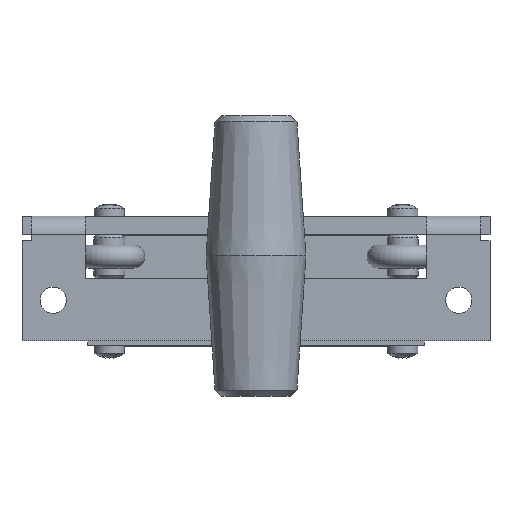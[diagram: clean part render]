
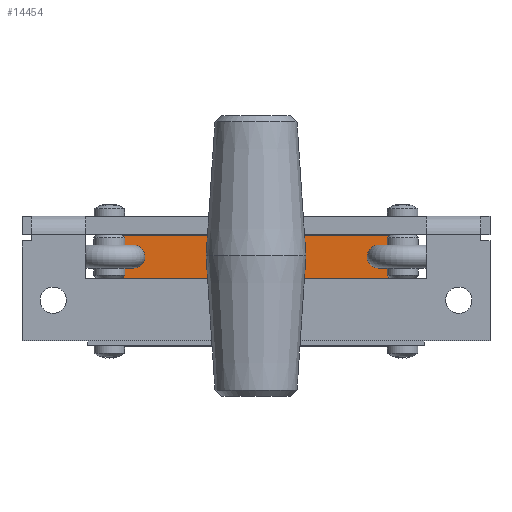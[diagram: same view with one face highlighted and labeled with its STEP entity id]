
A CAD part, top view. The second image highlights one B-rep face of the part: STEP entity #14454.
In plain terms, the highlighted planar face has unit normal (0, 0, 1).
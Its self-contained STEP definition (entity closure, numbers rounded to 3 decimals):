
#11742 = PLANE('',#11743);
#11743 = AXIS2_PLACEMENT_3D('',#11744,#11745,#11746);
#11744 = CARTESIAN_POINT('',(0.,-13.5,-16.73));
#11745 = DIRECTION('',(0.,1.,0.));
#11746 = DIRECTION('',(0.,0.,-1.));
#12908 = VERTEX_POINT('',#12909);
#12909 = CARTESIAN_POINT('',(21.3,-13.5,-35.2));
#12935 = EDGE_CURVE('',#12936,#12908,#12938,.T.);
#12936 = VERTEX_POINT('',#12937);
#12937 = CARTESIAN_POINT('',(5.,-13.5,-35.2));
#12938 = SURFACE_CURVE('',#12939,(#12943,#12950),.PCURVE_S1.);
#12939 = LINE('',#12940,#12941);
#12940 = CARTESIAN_POINT('',(-21.3,-13.5,-35.2));
#12941 = VECTOR('',#12942,1.);
#12942 = DIRECTION('',(1.,0.,0.));
#12943 = PCURVE('',#11742,#12944);
#12944 = DEFINITIONAL_REPRESENTATION('',(#12945),#12949);
#12945 = LINE('',#12946,#12947);
#12946 = CARTESIAN_POINT('',(18.47,21.3));
#12947 = VECTOR('',#12948,1.);
#12948 = DIRECTION('',(0.,-1.));
#12949 = ( GEOMETRIC_REPRESENTATION_CONTEXT(2) 
PARAMETRIC_REPRESENTATION_CONTEXT() REPRESENTATION_CONTEXT('2D SPACE',''
  ) );
#12950 = PCURVE('',#12951,#12956);
#12951 = PLANE('',#12952);
#12952 = AXIS2_PLACEMENT_3D('',#12953,#12954,#12955);
#12953 = CARTESIAN_POINT('',(0.,-3.9,-35.2));
#12954 = DIRECTION('',(0.,0.,-1.));
#12955 = DIRECTION('',(1.,0.,0.));
#12956 = DEFINITIONAL_REPRESENTATION('',(#12957),#12961);
#12957 = LINE('',#12958,#12959);
#12958 = CARTESIAN_POINT('',(-21.3,9.6));
#12959 = VECTOR('',#12960,1.);
#12960 = DIRECTION('',(1.,0.));
#12961 = ( GEOMETRIC_REPRESENTATION_CONTEXT(2) 
PARAMETRIC_REPRESENTATION_CONTEXT() REPRESENTATION_CONTEXT('2D SPACE',''
  ) );
#12964 = VERTEX_POINT('',#12965);
#12965 = CARTESIAN_POINT('',(-5.,-13.5,-35.2));
#12991 = EDGE_CURVE('',#12992,#12964,#12994,.T.);
#12992 = VERTEX_POINT('',#12993);
#12993 = CARTESIAN_POINT('',(-21.3,-13.5,-35.2));
#12994 = SURFACE_CURVE('',#12995,(#12999,#13006),.PCURVE_S1.);
#12995 = LINE('',#12996,#12997);
#12996 = CARTESIAN_POINT('',(-21.3,-13.5,-35.2));
#12997 = VECTOR('',#12998,1.);
#12998 = DIRECTION('',(1.,0.,0.));
#12999 = PCURVE('',#11742,#13000);
#13000 = DEFINITIONAL_REPRESENTATION('',(#13001),#13005);
#13001 = LINE('',#13002,#13003);
#13002 = CARTESIAN_POINT('',(18.47,21.3));
#13003 = VECTOR('',#13004,1.);
#13004 = DIRECTION('',(0.,-1.));
#13005 = ( GEOMETRIC_REPRESENTATION_CONTEXT(2) 
PARAMETRIC_REPRESENTATION_CONTEXT() REPRESENTATION_CONTEXT('2D SPACE',''
  ) );
#13006 = PCURVE('',#12951,#13007);
#13007 = DEFINITIONAL_REPRESENTATION('',(#13008),#13012);
#13008 = LINE('',#13009,#13010);
#13009 = CARTESIAN_POINT('',(-21.3,9.6));
#13010 = VECTOR('',#13011,1.);
#13011 = DIRECTION('',(1.,0.));
#13012 = ( GEOMETRIC_REPRESENTATION_CONTEXT(2) 
PARAMETRIC_REPRESENTATION_CONTEXT() REPRESENTATION_CONTEXT('2D SPACE',''
  ) );
#14454 = ADVANCED_FACE('',(#14455),#12951,.F.);
#14455 = FACE_BOUND('',#14456,.F.);
#14456 = EDGE_LOOP('',(#14457,#14458,#14486,#14514,#14540,#14541,#14569,
    #14597));
#14457 = ORIENTED_EDGE('',*,*,#12991,.F.);
#14458 = ORIENTED_EDGE('',*,*,#14459,.T.);
#14459 = EDGE_CURVE('',#12992,#14460,#14462,.T.);
#14460 = VERTEX_POINT('',#14461);
#14461 = CARTESIAN_POINT('',(-21.3,5.7,-35.2));
#14462 = SURFACE_CURVE('',#14463,(#14467,#14474),.PCURVE_S1.);
#14463 = LINE('',#14464,#14465);
#14464 = CARTESIAN_POINT('',(-21.3,-13.5,-35.2));
#14465 = VECTOR('',#14466,1.);
#14466 = DIRECTION('',(0.,1.,0.));
#14467 = PCURVE('',#12951,#14468);
#14468 = DEFINITIONAL_REPRESENTATION('',(#14469),#14473);
#14469 = LINE('',#14470,#14471);
#14470 = CARTESIAN_POINT('',(-21.3,9.6));
#14471 = VECTOR('',#14472,1.);
#14472 = DIRECTION('',(0.,-1.));
#14473 = ( GEOMETRIC_REPRESENTATION_CONTEXT(2) 
PARAMETRIC_REPRESENTATION_CONTEXT() REPRESENTATION_CONTEXT('2D SPACE',''
  ) );
#14474 = PCURVE('',#14475,#14480);
#14475 = PLANE('',#14476);
#14476 = AXIS2_PLACEMENT_3D('',#14477,#14478,#14479);
#14477 = CARTESIAN_POINT('',(-21.3,-13.5,-36.));
#14478 = DIRECTION('',(-1.,0.,0.));
#14479 = DIRECTION('',(0.,1.,0.));
#14480 = DEFINITIONAL_REPRESENTATION('',(#14481),#14485);
#14481 = LINE('',#14482,#14483);
#14482 = CARTESIAN_POINT('',(0.,-0.8));
#14483 = VECTOR('',#14484,1.);
#14484 = DIRECTION('',(1.,0.));
#14485 = ( GEOMETRIC_REPRESENTATION_CONTEXT(2) 
PARAMETRIC_REPRESENTATION_CONTEXT() REPRESENTATION_CONTEXT('2D SPACE',''
  ) );
#14486 = ORIENTED_EDGE('',*,*,#14487,.T.);
#14487 = EDGE_CURVE('',#14460,#14488,#14490,.T.);
#14488 = VERTEX_POINT('',#14489);
#14489 = CARTESIAN_POINT('',(21.3,5.7,-35.2));
#14490 = SURFACE_CURVE('',#14491,(#14495,#14502),.PCURVE_S1.);
#14491 = LINE('',#14492,#14493);
#14492 = CARTESIAN_POINT('',(-21.3,5.7,-35.2));
#14493 = VECTOR('',#14494,1.);
#14494 = DIRECTION('',(1.,0.,0.));
#14495 = PCURVE('',#12951,#14496);
#14496 = DEFINITIONAL_REPRESENTATION('',(#14497),#14501);
#14497 = LINE('',#14498,#14499);
#14498 = CARTESIAN_POINT('',(-21.3,-9.6));
#14499 = VECTOR('',#14500,1.);
#14500 = DIRECTION('',(1.,0.));
#14501 = ( GEOMETRIC_REPRESENTATION_CONTEXT(2) 
PARAMETRIC_REPRESENTATION_CONTEXT() REPRESENTATION_CONTEXT('2D SPACE',''
  ) );
#14502 = PCURVE('',#14503,#14508);
#14503 = PLANE('',#14504);
#14504 = AXIS2_PLACEMENT_3D('',#14505,#14506,#14507);
#14505 = CARTESIAN_POINT('',(-21.3,5.7,-36.));
#14506 = DIRECTION('',(0.,1.,0.));
#14507 = DIRECTION('',(1.,0.,0.));
#14508 = DEFINITIONAL_REPRESENTATION('',(#14509),#14513);
#14509 = LINE('',#14510,#14511);
#14510 = CARTESIAN_POINT('',(0.,-0.8));
#14511 = VECTOR('',#14512,1.);
#14512 = DIRECTION('',(1.,0.));
#14513 = ( GEOMETRIC_REPRESENTATION_CONTEXT(2) 
PARAMETRIC_REPRESENTATION_CONTEXT() REPRESENTATION_CONTEXT('2D SPACE',''
  ) );
#14514 = ORIENTED_EDGE('',*,*,#14515,.T.);
#14515 = EDGE_CURVE('',#14488,#12908,#14516,.T.);
#14516 = SURFACE_CURVE('',#14517,(#14521,#14528),.PCURVE_S1.);
#14517 = LINE('',#14518,#14519);
#14518 = CARTESIAN_POINT('',(21.3,5.7,-35.2));
#14519 = VECTOR('',#14520,1.);
#14520 = DIRECTION('',(0.,-1.,0.));
#14521 = PCURVE('',#12951,#14522);
#14522 = DEFINITIONAL_REPRESENTATION('',(#14523),#14527);
#14523 = LINE('',#14524,#14525);
#14524 = CARTESIAN_POINT('',(21.3,-9.6));
#14525 = VECTOR('',#14526,1.);
#14526 = DIRECTION('',(0.,1.));
#14527 = ( GEOMETRIC_REPRESENTATION_CONTEXT(2) 
PARAMETRIC_REPRESENTATION_CONTEXT() REPRESENTATION_CONTEXT('2D SPACE',''
  ) );
#14528 = PCURVE('',#14529,#14534);
#14529 = PLANE('',#14530);
#14530 = AXIS2_PLACEMENT_3D('',#14531,#14532,#14533);
#14531 = CARTESIAN_POINT('',(21.3,5.7,-36.));
#14532 = DIRECTION('',(1.,0.,0.));
#14533 = DIRECTION('',(0.,-1.,0.));
#14534 = DEFINITIONAL_REPRESENTATION('',(#14535),#14539);
#14535 = LINE('',#14536,#14537);
#14536 = CARTESIAN_POINT('',(0.,-0.8));
#14537 = VECTOR('',#14538,1.);
#14538 = DIRECTION('',(1.,0.));
#14539 = ( GEOMETRIC_REPRESENTATION_CONTEXT(2) 
PARAMETRIC_REPRESENTATION_CONTEXT() REPRESENTATION_CONTEXT('2D SPACE',''
  ) );
#14540 = ORIENTED_EDGE('',*,*,#12935,.F.);
#14541 = ORIENTED_EDGE('',*,*,#14542,.F.);
#14542 = EDGE_CURVE('',#14543,#12936,#14545,.T.);
#14543 = VERTEX_POINT('',#14544);
#14544 = CARTESIAN_POINT('',(5.,2.7,-35.2));
#14545 = SURFACE_CURVE('',#14546,(#14550,#14557),.PCURVE_S1.);
#14546 = LINE('',#14547,#14548);
#14547 = CARTESIAN_POINT('',(5.,2.7,-35.2));
#14548 = VECTOR('',#14549,1.);
#14549 = DIRECTION('',(0.,-1.,0.));
#14550 = PCURVE('',#12951,#14551);
#14551 = DEFINITIONAL_REPRESENTATION('',(#14552),#14556);
#14552 = LINE('',#14553,#14554);
#14553 = CARTESIAN_POINT('',(5.,-6.6));
#14554 = VECTOR('',#14555,1.);
#14555 = DIRECTION('',(0.,1.));
#14556 = ( GEOMETRIC_REPRESENTATION_CONTEXT(2) 
PARAMETRIC_REPRESENTATION_CONTEXT() REPRESENTATION_CONTEXT('2D SPACE',''
  ) );
#14557 = PCURVE('',#14558,#14563);
#14558 = PLANE('',#14559);
#14559 = AXIS2_PLACEMENT_3D('',#14560,#14561,#14562);
#14560 = CARTESIAN_POINT('',(5.,2.7,-45.2));
#14561 = DIRECTION('',(1.,0.,0.));
#14562 = DIRECTION('',(0.,-1.,0.));
#14563 = DEFINITIONAL_REPRESENTATION('',(#14564),#14568);
#14564 = LINE('',#14565,#14566);
#14565 = CARTESIAN_POINT('',(0.,-10.));
#14566 = VECTOR('',#14567,1.);
#14567 = DIRECTION('',(1.,0.));
#14568 = ( GEOMETRIC_REPRESENTATION_CONTEXT(2) 
PARAMETRIC_REPRESENTATION_CONTEXT() REPRESENTATION_CONTEXT('2D SPACE',''
  ) );
#14569 = ORIENTED_EDGE('',*,*,#14570,.F.);
#14570 = EDGE_CURVE('',#14571,#14543,#14573,.T.);
#14571 = VERTEX_POINT('',#14572);
#14572 = CARTESIAN_POINT('',(-5.,2.7,-35.2));
#14573 = SURFACE_CURVE('',#14574,(#14578,#14585),.PCURVE_S1.);
#14574 = LINE('',#14575,#14576);
#14575 = CARTESIAN_POINT('',(-5.,2.7,-35.2));
#14576 = VECTOR('',#14577,1.);
#14577 = DIRECTION('',(1.,0.,0.));
#14578 = PCURVE('',#12951,#14579);
#14579 = DEFINITIONAL_REPRESENTATION('',(#14580),#14584);
#14580 = LINE('',#14581,#14582);
#14581 = CARTESIAN_POINT('',(-5.,-6.6));
#14582 = VECTOR('',#14583,1.);
#14583 = DIRECTION('',(1.,0.));
#14584 = ( GEOMETRIC_REPRESENTATION_CONTEXT(2) 
PARAMETRIC_REPRESENTATION_CONTEXT() REPRESENTATION_CONTEXT('2D SPACE',''
  ) );
#14585 = PCURVE('',#14586,#14591);
#14586 = PLANE('',#14587);
#14587 = AXIS2_PLACEMENT_3D('',#14588,#14589,#14590);
#14588 = CARTESIAN_POINT('',(-5.,2.7,-45.2));
#14589 = DIRECTION('',(0.,-1.,0.));
#14590 = DIRECTION('',(1.,0.,0.));
#14591 = DEFINITIONAL_REPRESENTATION('',(#14592),#14596);
#14592 = LINE('',#14593,#14594);
#14593 = CARTESIAN_POINT('',(0.,10.));
#14594 = VECTOR('',#14595,1.);
#14595 = DIRECTION('',(1.,0.));
#14596 = ( GEOMETRIC_REPRESENTATION_CONTEXT(2) 
PARAMETRIC_REPRESENTATION_CONTEXT() REPRESENTATION_CONTEXT('2D SPACE',''
  ) );
#14597 = ORIENTED_EDGE('',*,*,#14598,.T.);
#14598 = EDGE_CURVE('',#14571,#12964,#14599,.T.);
#14599 = SURFACE_CURVE('',#14600,(#14604,#14611),.PCURVE_S1.);
#14600 = LINE('',#14601,#14602);
#14601 = CARTESIAN_POINT('',(-5.,2.7,-35.2));
#14602 = VECTOR('',#14603,1.);
#14603 = DIRECTION('',(0.,-1.,0.));
#14604 = PCURVE('',#12951,#14605);
#14605 = DEFINITIONAL_REPRESENTATION('',(#14606),#14610);
#14606 = LINE('',#14607,#14608);
#14607 = CARTESIAN_POINT('',(-5.,-6.6));
#14608 = VECTOR('',#14609,1.);
#14609 = DIRECTION('',(0.,1.));
#14610 = ( GEOMETRIC_REPRESENTATION_CONTEXT(2) 
PARAMETRIC_REPRESENTATION_CONTEXT() REPRESENTATION_CONTEXT('2D SPACE',''
  ) );
#14611 = PCURVE('',#14612,#14617);
#14612 = PLANE('',#14613);
#14613 = AXIS2_PLACEMENT_3D('',#14614,#14615,#14616);
#14614 = CARTESIAN_POINT('',(-5.,2.7,-45.2));
#14615 = DIRECTION('',(1.,0.,0.));
#14616 = DIRECTION('',(0.,-1.,0.));
#14617 = DEFINITIONAL_REPRESENTATION('',(#14618),#14622);
#14618 = LINE('',#14619,#14620);
#14619 = CARTESIAN_POINT('',(0.,-10.));
#14620 = VECTOR('',#14621,1.);
#14621 = DIRECTION('',(1.,0.));
#14622 = ( GEOMETRIC_REPRESENTATION_CONTEXT(2) 
PARAMETRIC_REPRESENTATION_CONTEXT() REPRESENTATION_CONTEXT('2D SPACE',''
  ) );
